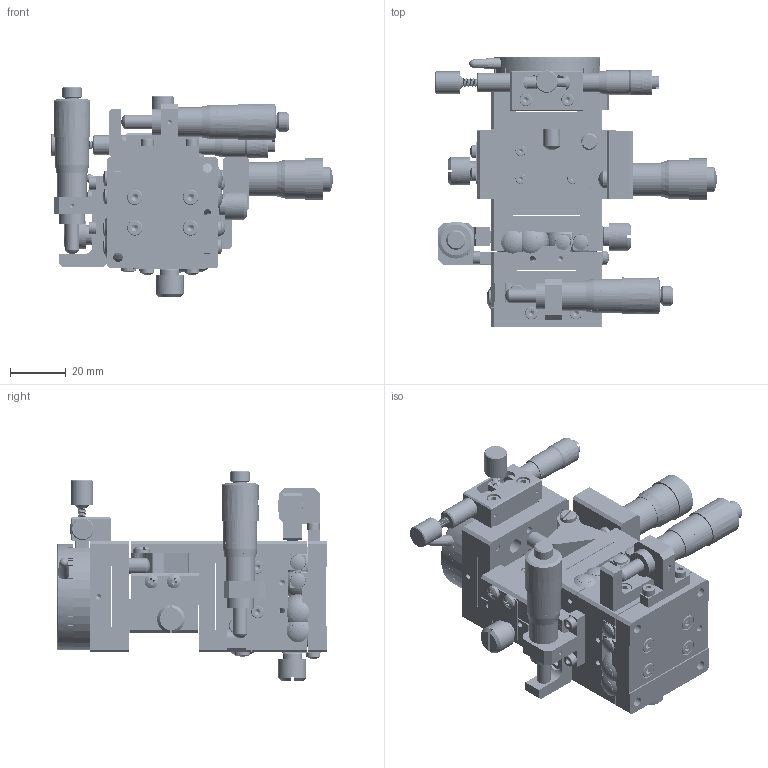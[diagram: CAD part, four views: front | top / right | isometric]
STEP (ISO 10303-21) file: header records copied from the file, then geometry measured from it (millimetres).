
FILE_DESCRIPTION (( 'STEP AP203' ), '1' );
FILE_NAME ('BLT40.STEP', '2024-07-27T07:28:10', ( 'Windows User' ), ( 'P R C' ), 'SwSTEP 2.0', 'SolidWorks 2024', '' );
FILE_SCHEMA (( 'CONFIG_CONTROL_DESIGN' ));
Products named in the file (1): BLT40
Bounding box: 101.01 x 97 x 75.4 mm (x, y, z)
Volume: 139570.5 mm3; surface area: 113326.5 mm2
Topology: 119 solids, 119 shells, 6439 faces, 17575 edges, 11918 vertices
Faces by surface type: plane 3499, bspline 1144, cylinder 1103, cone 597, torus 84, sphere 12
Full cylindrical faces by diameter (mm): 1.6 x16, 1.65 x8, 2 x30, 2.05 x47, 2.4 x12, 2.5 x69, 2.55 x16, 2.6 x2, 2.8 x2, 2.9 x7, 2.95 x27, 3 x47, 3.1 x4, 3.2 x4, 3.4 x35, 3.5 x2, 3.8 x8, 3.9 x8, 4 x10, 4.1 x1, 4.3 x4, 4.4 x16, 4.5 x15, 4.7 x1, 5 x23, 5.5 x33, 5.7 x1, 5.8 x4, 6 x42, 6.35 x2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
Entity records: 305259 total; most frequent: CARTESIAN_POINT 159358, ORIENTED_EDGE 32590, DIRECTION 24125, EDGE_CURVE 16295, VERTEX_POINT 11570, AXIS2_PLACEMENT_3D 8366, EDGE_LOOP 8303, VECTOR 7393
